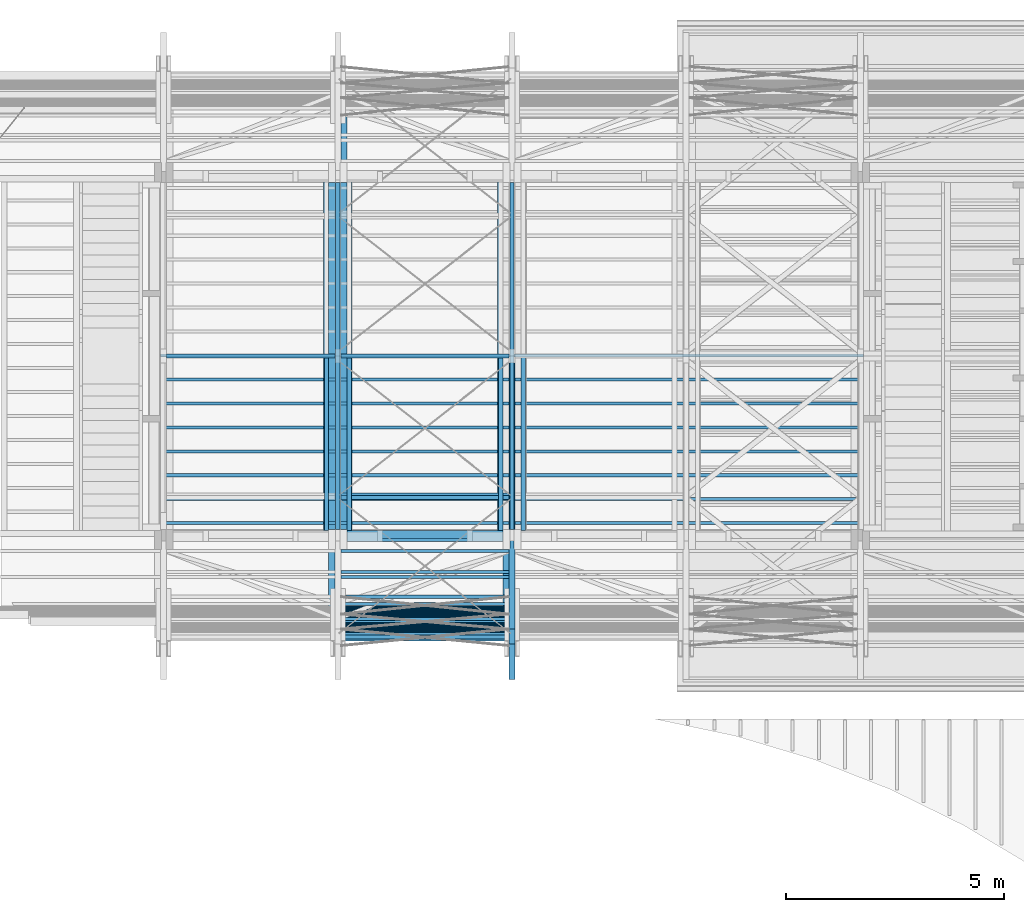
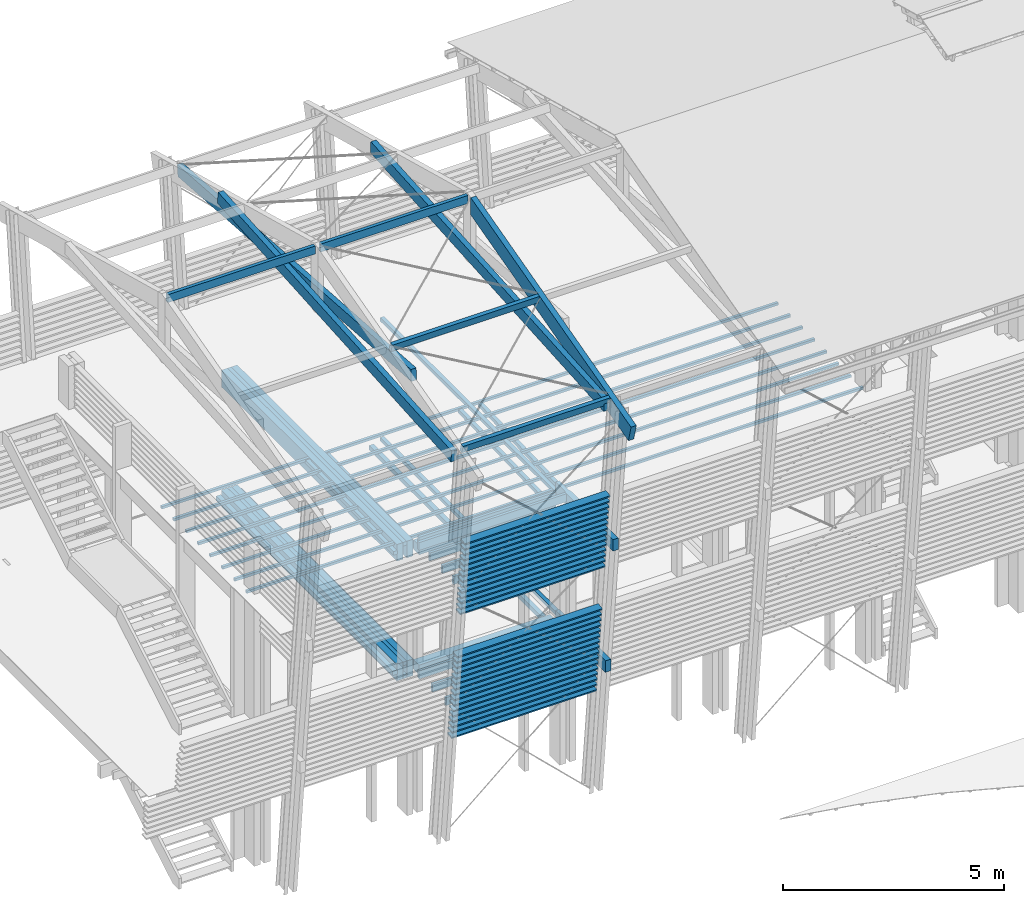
# One storey, part 6 of 48: 74 beams.
"""IFC2X3 building model written with IfcOpenShell, lengths in metres."""

from ifc_helpers import new_model, si_unit, direction, frame, origin_with_axes, place, context, subcontext, project, spatial, faceted_brep, material, element, save


model = new_model("IFC2X3")

# Units and contexts
model_context = context("Model", 3, precision=1e-06, world=origin_with_axes(), true_north=direction((0.0, 1.0, 0.0)))
body_context = subcontext(model_context, "Body", "Model", "MODEL_VIEW")
ifc_project = project(units=[si_unit("LENGTHUNIT", "METRE"), si_unit("AREAUNIT", "SQUARE_METRE"), si_unit("VOLUMEUNIT", "CUBIC_METRE"), si_unit("PLANEANGLEUNIT", "RADIAN")], contexts=[model_context])

# Site, building, storey
site_placement = place(None, origin_with_axes())
site = spatial("IfcSite", under=ifc_project, at=site_placement, CompositionType="ELEMENT")
building_placement = place(site_placement, origin_with_axes())
building = spatial("IfcBuilding", under=site, at=building_placement, Name="Building 1", CompositionType="ELEMENT")
storey_placement = place(building_placement, origin_with_axes())
storey = spatial("IfcBuildingStorey", under=building, at=storey_placement, Name="Storey 1", CompositionType="ELEMENT", Elevation=0.0)

# Beams
ifc_material_1 = material(Name="GL28h")
beam_1_placement = place(storey_placement, frame((29.2197437, -185.2064881, 4.015), z_axis=(0.0, 0.0, 1.0), x_axis=(0.0, -1.0, 0.0)))
element("IfcBeam", 1, at=beam_1_placement, inside=storey, material=ifc_material_1, Name="Sous-glace", context=body_context, shape_type="Brep", body=[
    faceted_brep([(0.0, -0.06, -0.06), (0.0, 0.06, -0.06), (8.0031634, 0.06, -0.06), (8.0031634, -0.06, -0.06), (0.0, 0.06, 0.06), (8.0031634, 0.06, 0.06), (0.0, -0.06, 0.06), (8.0031634, -0.06, 0.06)], [[[0, 1, 2, 3]], [[1, 4, 5, 2]], [[4, 6, 7, 5]], [[6, 0, 3, 7]], [[0, 6, 4, 1]], [[5, 7, 3, 2]]]),
])
beam_2_placement = place(storey_placement, frame((25.4197437, -190.2946515, 7.494), z_axis=(0.0, 0.0, 1.0), x_axis=(1.0, 0.0, 0.0)))
element("IfcBeam", 2, at=beam_2_placement, inside=storey, material=ifc_material_1, Name="Poutre - Bois de construction", context=body_context, shape_type="Brep", body=[
    faceted_brep([(16.14, -0.035, -0.035), (16.14, -0.035, 0.035), (0.0, -0.035, 0.035), (0.0, -0.035, -0.035), (16.14, 0.035, 0.035), (0.0, 0.035, 0.035), (16.14, 0.035, -0.035), (0.0, 0.035, -0.035)], [[[0, 1, 2, 3]], [[1, 4, 5, 2]], [[4, 6, 7, 5]], [[6, 0, 3, 7]], [[1, 0, 6, 4]], [[7, 3, 2, 5]]]),
])
beam_3_placement = place(storey_placement, frame((33.7497437, -189.2065705, 7.4500014), z_axis=(0.0, -0.0299865, 0.9995503), x_axis=(0.0, -0.9995503, -0.0299865)))
element("IfcBeam", 3, at=beam_3_placement, inside=storey, material=ifc_material_1, Name="Sous-glace", context=body_context, shape_type="Brep", body=[
    faceted_brep([(0.0, -0.05, 0.05), (0.003, -0.05, -0.05), (4.006382, -0.05, -0.05), (4.003382, -0.05, 0.05), (4.003382, 0.05, 0.05), (0.0, 0.05, 0.05), (0.003, 0.05, -0.05), (4.006382, 0.05, -0.05)], [[[0, 1, 2, 3]], [[3, 4, 5, 0]], [[6, 5, 4, 7]], [[1, 6, 7, 2]], [[1, 0, 5, 6]], [[2, 7, 4, 3]]]),
])
beam_4_placement = place(storey_placement, frame((25.4197437, -190.8446515, 7.494), z_axis=(0.0, 0.0, 1.0), x_axis=(1.0, 0.0, 0.0)))
element("IfcBeam", 4, at=beam_4_placement, inside=storey, material=ifc_material_1, Name="Poutre - Bois de construction", context=body_context, shape_type="Brep", body=[
    faceted_brep([(16.14, -0.035, -0.035), (16.14, -0.035, 0.035), (0.0, -0.035, 0.035), (0.0, -0.035, -0.035), (16.14, 0.035, 0.035), (0.0, 0.035, 0.035), (16.14, 0.035, -0.035), (0.0, 0.035, -0.035)], [[[0, 1, 2, 3]], [[1, 4, 5, 2]], [[4, 6, 7, 5]], [[6, 0, 3, 7]], [[1, 0, 6, 4]], [[7, 3, 2, 5]]]),
])
beam_5_placement = place(storey_placement, frame((33.2197437, -185.2064881, 4.015), z_axis=(0.0, 0.0, 1.0), x_axis=(0.0, -1.0, 0.0)))
element("IfcBeam", 5, at=beam_5_placement, inside=storey, material=ifc_material_1, Name="Sous-glace", context=body_context, shape_type="Brep", body=[
    faceted_brep([(0.0, -0.06, -0.06), (0.0, 0.06, -0.06), (8.0031634, 0.06, -0.06), (8.0031634, -0.06, -0.06), (0.0, 0.06, 0.06), (8.0031634, 0.06, 0.06), (0.0, -0.06, 0.06), (8.0031634, -0.06, 0.06)], [[[0, 1, 2, 3]], [[1, 4, 5, 2]], [[4, 6, 7, 5]], [[6, 0, 3, 7]], [[0, 6, 4, 1]], [[5, 7, 3, 2]]]),
])
beam_6_placement = place(storey_placement, frame((33.4897437, -185.2264881, 7.48), z_axis=(0.0, 0.0, 1.0), x_axis=(0.0, -1.0, 0.0)))
element("IfcBeam", 6, at=beam_6_placement, inside=storey, material=ifc_material_1, Name="Sommier", context=body_context, shape_type="Brep", body=[
    faceted_brep([(0.0, -0.05, -0.05), (0.0, -0.05, 0.05), (0.0, 0.05, 0.05), (0.0, 0.05, -0.05), (7.9631634, -0.05, 0.05), (7.9631634, 0.05, 0.05), (7.9631634, -0.05, -0.05), (7.9631634, 0.05, -0.05)], [[[0, 1, 2, 3]], [[2, 1, 4, 5]], [[1, 0, 6, 4]], [[5, 4, 6, 7]], [[3, 2, 5, 7]], [[0, 3, 7, 6]]]),
])
ifc_material_2 = material(Name="Moabi")
beam_7_placement = place(storey_placement, frame((33.3927439, -195.2445903, 5.1686208), z_axis=(0.0, 0.9945219, 0.1045285), x_axis=(-1.0, 0.0, 0.0)))
element("IfcBeam", 7, at=beam_7_placement, inside=storey, material=ifc_material_2, Name="garde corp", context=body_context, shape_type="Brep", body=[
    faceted_brep([(3.8048055, 0.02, -0.1), (3.8048055, -0.02, -0.1), (0.0, -0.02, -0.1), (0.0, 0.02, -0.1), (3.8048055, -0.02, 0.1), (0.0, -0.02, 0.1), (3.8048055, 0.02, 0.1), (0.0, 0.02, 0.1)], [[[0, 1, 2, 3]], [[1, 4, 5, 2]], [[4, 6, 7, 5]], [[6, 0, 3, 7]], [[1, 0, 6, 4]], [[7, 3, 2, 5]]]),
])
for number, where, z_axis, x_axis, name in (
    (8, (33.3927439, -195.0606202, 3.4182623), (0.0, 0.9945219, 0.1045285), (-1.0, 0.0, 0.0), "garde corp"),
    (9, (33.3927439, -195.2780394, 5.4868678), (0.0, 0.9945219, 0.1045285), (-1.0, 0.0, 0.0), "garde corp"),
):
    element("IfcBeam", number, at=place(storey_placement, frame(where, z_axis=z_axis, x_axis=x_axis)), inside=storey, material=ifc_material_2, Name=name, context=body_context, shape_type="Brep", body=[
        faceted_brep([(3.8047069, 0.02, -0.1), (3.8047069, -0.02, -0.1), (0.0, -0.02, -0.1), (0.0, 0.02, -0.1), (3.8047069, -0.02, 0.1), (0.0, -0.02, 0.1), (3.8047071, 0.02, 0.1), (0.0, 0.02, 0.1)], [[[0, 1, 2, 3]], [[1, 4, 5, 2]], [[4, 6, 7, 5]], [[6, 0, 3, 7]], [[1, 0, 6, 4]], [[7, 3, 2, 5]]]),
    ])
beam_8_placement = place(storey_placement, frame((33.3927439, -195.0438956, 3.2591388), z_axis=(0.0, 0.9945219, 0.1045285), x_axis=(-1.0, 0.0, 0.0)))
element("IfcBeam", 10, at=beam_8_placement, inside=storey, material=ifc_material_2, Name="garde corp", context=body_context, shape_type="Brep", body=[
    faceted_brep([(3.8048051, 0.02, -0.1), (3.8048051, -0.02, -0.1), (0.0, -0.02, -0.1), (0.0, 0.02, -0.1), (3.8048051, -0.02, 0.1), (0.0, -0.02, 0.1), (3.8048051, 0.02, 0.1), (0.0, 0.02, 0.1)], [[[0, 1, 2, 3]], [[1, 4, 5, 2]], [[4, 6, 7, 5]], [[6, 0, 3, 7]], [[1, 0, 6, 4]], [[7, 3, 2, 5]]]),
])
beam_9_placement = place(storey_placement, frame((29.3597437, -185.2264881, 3.985), z_axis=(0.0, 0.0, 1.0), x_axis=(0.0, -1.0, 0.0)))
element("IfcBeam", 11, at=beam_9_placement, inside=storey, material=ifc_material_1, Name="Sommier", context=body_context, shape_type="Brep", body=[
    faceted_brep([(7.9631634, 0.08, 0.23), (7.9631634, 0.08, -0.23), (0.0, 0.08, -0.23), (0.0, 0.08, 0.23), (0.0, -0.08, -0.23), (0.0, -0.08, 0.23), (7.9631634, -0.08, -0.23), (7.9631634, -0.08, 0.23)], [[[0, 1, 2, 3]], [[2, 4, 5, 3]], [[6, 7, 5, 4]], [[1, 6, 4, 2]], [[7, 6, 1, 0]], [[7, 0, 3, 5]]]),
])
beam_10_placement = place(storey_placement, frame((29.7497437, -189.2065705, 7.4500014), z_axis=(0.0, -0.0299865, 0.9995503), x_axis=(0.0, -0.9995503, -0.0299865)))
element("IfcBeam", 12, at=beam_10_placement, inside=storey, material=ifc_material_1, Name="Sous-glace", context=body_context, shape_type="Brep", body=[
    faceted_brep([(0.0, -0.05, 0.05), (0.003, -0.05, -0.05), (4.006382, -0.05, -0.05), (4.003382, -0.05, 0.05), (4.003382, 0.05, 0.05), (0.0, 0.05, 0.05), (0.003, 0.05, -0.05), (4.006382, 0.05, -0.05)], [[[0, 1, 2, 3]], [[3, 4, 5, 0]], [[6, 5, 4, 7]], [[1, 6, 7, 2]], [[1, 0, 5, 6]], [[2, 7, 4, 3]]]),
])
beam_11_placement = place(storey_placement, frame((29.3597437, -185.2264881, 7.3), z_axis=(0.0, 0.0, 1.0), x_axis=(0.0, -1.0, 0.0)))
element("IfcBeam", 13, at=beam_11_placement, inside=storey, material=ifc_material_1, Name="Sommier", context=body_context, shape_type="Brep", body=[
    faceted_brep([(7.9631634, 0.08, 0.23), (7.9631634, 0.08, -0.23), (0.0, 0.08, -0.23), (0.0, 0.08, 0.23), (0.0, -0.08, -0.23), (0.0, -0.08, 0.23), (7.9631634, -0.08, -0.23), (7.9631634, -0.08, 0.23)], [[[0, 1, 2, 3]], [[2, 4, 5, 3]], [[6, 7, 5, 4]], [[1, 6, 4, 2]], [[7, 6, 1, 0]], [[7, 0, 3, 5]]]),
])
beam_12_placement = place(storey_placement, frame((33.3927439, -195.2278657, 5.0094973), z_axis=(0.0, 0.9945219, 0.1045285), x_axis=(-1.0, 0.0, 0.0)))
element("IfcBeam", 14, at=beam_12_placement, inside=storey, material=ifc_material_2, Name="garde corp", context=body_context, shape_type="Brep", body=[
    faceted_brep([(3.8047069, 0.02, -0.1), (3.8047071, -0.02, -0.1), (0.0, -0.02, -0.1), (0.0, 0.02, -0.1), (3.8047069, -0.02, 0.1), (0.0, -0.02, 0.1), (3.8047071, 0.02, 0.1), (0.0, 0.02, 0.1)], [[[0, 1, 2, 3]], [[1, 4, 5, 2]], [[4, 6, 7, 5]], [[6, 0, 3, 7]], [[1, 0, 6, 4]], [[7, 3, 2, 5]]]),
])
beam_13_placement = place(storey_placement, frame((33.3927439, -195.1944166, 4.6912503), z_axis=(0.0, 0.9945219, 0.1045285), x_axis=(-1.0, 0.0, 0.0)))
element("IfcBeam", 15, at=beam_13_placement, inside=storey, material=ifc_material_2, Name="garde corp", context=body_context, shape_type="Brep", body=[
    faceted_brep([(3.8047069, 0.02, -0.1), (3.8047071, -0.02, -0.1), (0.0, -0.02, -0.1), (0.0, 0.02, -0.1), (3.8047071, -0.02, 0.1), (0.0, -0.02, 0.1), (3.8047071, 0.02, 0.1), (0.0, 0.02, 0.1)], [[[0, 1, 2, 3]], [[1, 4, 5, 2]], [[4, 6, 7, 5]], [[6, 0, 3, 7]], [[1, 0, 6, 4]], [[7, 3, 2, 5]]]),
])
for number, where, z_axis, x_axis in (
    (16, (33.4897437, -185.2264881, 4.165), (0.0, 0.0, 1.0), (0.0, -1.0, 0.0)),
    (17, (29.4897437, -185.2264881, 4.165), (0.0, 0.0, 1.0), (0.0, -1.0, 0.0)),
):
    element("IfcBeam", number, at=place(storey_placement, frame(where, z_axis=z_axis, x_axis=x_axis)), inside=storey, material=ifc_material_1, Name="Sommier", context=body_context, shape_type="Brep", body=[
        faceted_brep([(0.0, -0.05, -0.05), (0.0, -0.05, 0.05), (0.0, 0.05, 0.05), (0.0, 0.05, -0.05), (7.9631634, -0.05, 0.05), (7.9631634, 0.05, 0.05), (7.9631634, -0.05, -0.05), (7.9631634, 0.05, -0.05)], [[[0, 1, 2, 3]], [[2, 1, 4, 5]], [[1, 0, 6, 4]], [[5, 4, 6, 7]], [[3, 2, 5, 7]], [[0, 3, 7, 6]]]),
    ])
for number, where, z_axis, x_axis, name in (
    (18, (25.4197437, -191.9446515, 7.494), (0.0, 0.0, 1.0), (1.0, 0.0, 0.0), "Poutre - Bois de construction"),
    (19, (25.4197437, -189.7446515, 7.494), (0.0, 0.0, 1.0), (1.0, 0.0, 0.0), "Poutre - Bois de construction"),
    (20, (25.4197437, -192.4946515, 7.494), (0.0, 0.0, 1.0), (1.0, 0.0, 0.0), "Poutre - Bois de construction"),
    (21, (25.4197437, -191.3946515, 7.494), (0.0, 0.0, 1.0), (1.0, 0.0, 0.0), "Poutre - Bois de construction"),
    (22, (25.4197437, -193.0446515, 7.494), (0.0, 0.0, 1.0), (1.0, 0.0, 0.0), "Poutre - Bois de construction"),
    (23, (25.4197437, -189.1946515, 7.494), (0.0, 0.0, 1.0), (1.0, 0.0, 0.0), "Poutre - Bois de construction"),
):
    element("IfcBeam", number, at=place(storey_placement, frame(where, z_axis=z_axis, x_axis=x_axis)), inside=storey, material=ifc_material_1, Name=name, context=body_context, shape_type="Brep", body=[
        faceted_brep([(16.14, -0.035, -0.035), (16.14, -0.035, 0.035), (0.0, -0.035, 0.035), (0.0, -0.035, -0.035), (16.14, 0.035, 0.035), (0.0, 0.035, 0.035), (16.14, 0.035, -0.035), (0.0, 0.035, -0.035)], [[[0, 1, 2, 3]], [[1, 4, 5, 2]], [[4, 6, 7, 5]], [[6, 0, 3, 7]], [[1, 0, 6, 4]], [[7, 3, 2, 5]]]),
    ])
beam_14_placement = place(storey_placement, frame((33.3927441, -195.478734, 7.3963498), z_axis=(0.0, 0.9945219, 0.1045285), x_axis=(-1.0, 0.0, 0.0)))
element("IfcBeam", 24, at=beam_14_placement, inside=storey, material=ifc_material_2, Name="garde corp", context=body_context, shape_type="Brep", body=[
    faceted_brep([(3.806, 0.02, -0.1), (3.806, -0.02, -0.1), (0.0, -0.02, -0.1), (0.0, 0.02, -0.1), (3.806, -0.02, 0.1), (0.0, -0.02, 0.1), (3.806, 0.02, 0.1), (0.0, 0.02, 0.1)], [[[0, 1, 2, 3]], [[1, 4, 5, 2]], [[4, 6, 7, 5]], [[6, 0, 3, 7]], [[1, 0, 6, 4]], [[7, 3, 2, 5]]]),
])
beam_15_placement = place(storey_placement, frame((29.5597437, -194.2816702, 4.139), z_axis=(0.0, 0.0, 1.0), x_axis=(1.0, 0.0, 0.0)))
element("IfcBeam", 25, at=beam_15_placement, inside=storey, material=ifc_material_1, Name="Solive", context=body_context, shape_type="Brep", body=[
    faceted_brep([(3.86, 0.035, 0.11), (3.86, 0.035, -0.11), (0.0, 0.035, -0.11), (0.0, 0.035, 0.11), (3.86, -0.035, -0.11), (0.0, -0.035, -0.11), (3.86, -0.035, 0.11), (0.0, -0.035, 0.11)], [[[0, 1, 2, 3]], [[1, 4, 5, 2]], [[4, 6, 7, 5]], [[6, 0, 3, 7]], [[1, 0, 6, 4]], [[7, 3, 2, 5]]]),
])
beam_16_placement = place(storey_placement, frame((33.3927439, -195.1107938, 3.8956328), z_axis=(0.0, 0.9945219, 0.1045285), x_axis=(-1.0, 0.0, 0.0)))
element("IfcBeam", 26, at=beam_16_placement, inside=storey, material=ifc_material_2, Name="garde corp", context=body_context, shape_type="Brep", body=[
    faceted_brep([(3.8047069, 0.02, -0.1), (3.8047071, -0.02, -0.1), (0.0, -0.02, -0.1), (0.0, 0.02, -0.1), (3.8047071, -0.02, 0.1), (0.0, -0.02, 0.1), (3.8047071, 0.02, 0.1), (0.0, 0.02, 0.1)], [[[0, 1, 2, 3]], [[1, 4, 5, 2]], [[4, 6, 7, 5]], [[6, 0, 3, 7]], [[1, 0, 6, 4]], [[7, 3, 2, 5]]]),
])
beam_17_placement = place(storey_placement, frame((33.3927439, -195.2111412, 4.8503738), z_axis=(0.0, 0.9945219, 0.1045285), x_axis=(-1.0, 0.0, 0.0)))
element("IfcBeam", 27, at=beam_17_placement, inside=storey, material=ifc_material_2, Name="garde corp", context=body_context, shape_type="Brep", body=[
    faceted_brep([(3.8048055, 0.02, -0.1), (3.8048055, -0.02, -0.1), (0.0, -0.02, -0.1), (0.0, 0.02, -0.1), (3.8048055, -0.02, 0.1), (0.0, -0.02, 0.1), (3.8048055, 0.02, 0.1), (0.0, 0.02, 0.1)], [[[0, 1, 2, 3]], [[1, 4, 5, 2]], [[4, 6, 7, 5]], [[6, 0, 3, 7]], [[1, 0, 6, 4]], [[7, 3, 2, 5]]]),
])
for number, where, z_axis, x_axis, name in (
    (28, (33.3927439, -195.1609675, 4.3730033), (0.0, 0.9945219, 0.1045285), (-1.0, 0.0, 0.0), "garde corp"),
    (29, (33.3927439, -195.1275184, 4.0547563), (0.0, 0.9945219, 0.1045285), (-1.0, 0.0, 0.0), "garde corp"),
):
    element("IfcBeam", number, at=place(storey_placement, frame(where, z_axis=z_axis, x_axis=x_axis)), inside=storey, material=ifc_material_2, Name=name, context=body_context, shape_type="Brep", body=[
        faceted_brep([(3.8048051, 0.02, -0.1), (3.8048051, -0.02, -0.1), (0.0, -0.02, -0.1), (0.0, 0.02, -0.1), (3.8048051, -0.02, 0.1), (0.0, -0.02, 0.1), (3.8048051, 0.02, 0.1), (0.0, 0.02, 0.1)], [[[0, 1, 2, 3]], [[1, 4, 5, 2]], [[4, 6, 7, 5]], [[6, 0, 3, 7]], [[1, 0, 6, 4]], [[7, 3, 2, 5]]]),
    ])
beam_18_placement = place(storey_placement, frame((33.3927439, -195.0940693, 3.7365093), z_axis=(0.0, 0.9945219, 0.1045285), x_axis=(-1.0, 0.0, 0.0)))
element("IfcBeam", 30, at=beam_18_placement, inside=storey, material=ifc_material_2, Name="garde corp", context=body_context, shape_type="Brep", body=[
    faceted_brep([(3.8047069, 0.02, -0.1), (3.8047071, -0.02, -0.1), (0.0, -0.02, -0.1), (0.0, 0.02, -0.1), (3.8047071, -0.02, 0.1), (0.0, -0.02, 0.1), (3.8047071, 0.02, 0.1), (0.0, 0.02, 0.1)], [[[0, 1, 2, 3]], [[1, 4, 5, 2]], [[4, 6, 7, 5]], [[6, 0, 3, 7]], [[1, 0, 6, 4]], [[7, 3, 2, 5]]]),
])
beam_19_placement = place(storey_placement, frame((33.3927439, -195.0773447, 3.5773858), z_axis=(0.0, 0.9945219, 0.1045285), x_axis=(-1.0, 0.0, 0.0)))
element("IfcBeam", 31, at=beam_19_placement, inside=storey, material=ifc_material_2, Name="garde corp", context=body_context, shape_type="Brep", body=[
    faceted_brep([(3.8047071, 0.02, -0.1), (3.8047071, -0.02, -0.1), (0.0, -0.02, -0.1), (0.0, 0.02, -0.1), (3.8047071, -0.02, 0.1), (0.0, -0.02, 0.1), (3.8047071, 0.02, 0.1), (0.0, 0.02, 0.1)], [[[0, 1, 2, 3]], [[1, 4, 5, 2]], [[4, 6, 7, 5]], [[6, 0, 3, 7]], [[1, 0, 6, 4]], [[7, 3, 2, 5]]]),
])
beam_20_placement = place(storey_placement, frame((33.3927439, -195.177692, 4.5321268), z_axis=(0.0, 0.9945219, 0.1045285), x_axis=(-1.0, 0.0, 0.0)))
element("IfcBeam", 32, at=beam_20_placement, inside=storey, material=ifc_material_2, Name="garde corp", context=body_context, shape_type="Brep", body=[
    faceted_brep([(3.8047069, 0.02, -0.1), (3.8047071, -0.02, -0.1), (0.0, -0.02, -0.1), (0.0, 0.02, -0.1), (3.8047069, -0.02, 0.1), (0.0, -0.02, 0.1), (3.8047071, 0.02, 0.1), (0.0, 0.02, 0.1)], [[[0, 1, 2, 3]], [[1, 4, 5, 2]], [[4, 6, 7, 5]], [[6, 0, 3, 7]], [[1, 0, 6, 4]], [[7, 3, 2, 5]]]),
])
for number, where, z_axis, x_axis, name in (
    (33, (33.3927441, -195.5790813, 8.3510909), (0.0, 0.9945219, 0.1045285), (-1.0, 0.0, 0.0), "garde corp"),
    (34, (33.3927441, -195.5958059, 8.5102144), (0.0, 0.9945219, 0.1045285), (-1.0, 0.0, 0.0), "garde corp"),
    (35, (33.3927441, -195.5623568, 8.1919674), (0.0, 0.9945219, 0.1045285), (-1.0, 0.0, 0.0), "garde corp"),
):
    element("IfcBeam", number, at=place(storey_placement, frame(where, z_axis=z_axis, x_axis=x_axis)), inside=storey, material=ifc_material_2, Name=name, context=body_context, shape_type="Brep", body=[
        faceted_brep([(3.806, 0.02, -0.1), (3.806, -0.02, -0.1), (0.0, -0.02, -0.1), (0.0, 0.02, -0.1), (3.806, -0.02, 0.1), (0.0, -0.02, 0.1), (3.806, 0.02, 0.1), (0.0, 0.02, 0.1)], [[[0, 1, 2, 3]], [[1, 4, 5, 2]], [[4, 6, 7, 5]], [[6, 0, 3, 7]], [[1, 0, 6, 4]], [[7, 3, 2, 5]]]),
    ])
beam_21_placement = place(storey_placement, frame((29.4897437, -185.2264881, 3.805), z_axis=(0.0, 0.0, 1.0), x_axis=(0.0, -1.0, 0.0)))
element("IfcBeam", 36, at=beam_21_placement, inside=storey, material=ifc_material_1, Name="Sommier", context=body_context, shape_type="Brep", body=[
    faceted_brep([(0.0, -0.05, -0.05), (0.0, -0.05, 0.05), (0.0, 0.05, 0.05), (0.0, 0.05, -0.05), (7.9631634, -0.05, 0.05), (7.9631634, 0.05, 0.05), (7.9631634, -0.05, -0.05), (7.9631634, 0.05, -0.05)], [[[0, 1, 2, 3]], [[2, 1, 4, 5]], [[1, 0, 6, 4]], [[5, 4, 6, 7]], [[3, 2, 5, 7]], [[0, 3, 7, 6]]]),
])
beam_22_placement = place(storey_placement, frame((33.3927439, -195.1442429, 4.2138798), z_axis=(0.0, 0.9945219, 0.1045285), x_axis=(-1.0, 0.0, 0.0)))
element("IfcBeam", 37, at=beam_22_placement, inside=storey, material=ifc_material_2, Name="garde corp", context=body_context, shape_type="Brep", body=[
    faceted_brep([(3.8048051, 0.02, -0.1), (3.8048051, -0.02, -0.1), (0.0, -0.02, -0.1), (0.0, 0.02, -0.1), (3.8048051, -0.02, 0.1), (0.0, -0.02, 0.1), (3.8048051, 0.02, 0.1), (0.0, 0.02, 0.1)], [[[0, 1, 2, 3]], [[1, 4, 5, 2]], [[4, 6, 7, 5]], [[6, 0, 3, 7]], [[1, 0, 6, 4]], [[7, 3, 2, 5]]]),
])
beam_23_placement = place(storey_placement, frame((33.3927439, -195.2613148, 5.3277443), z_axis=(0.0, 0.9945219, 0.1045285), x_axis=(-1.0, 0.0, 0.0)))
element("IfcBeam", 38, at=beam_23_placement, inside=storey, material=ifc_material_2, Name="garde corp", context=body_context, shape_type="Brep", body=[
    faceted_brep([(3.8048055, 0.02, -0.1), (3.8048055, -0.02, -0.1), (0.0, -0.02, -0.1), (0.0, 0.02, -0.1), (3.8048055, -0.02, 0.1), (0.0, -0.02, 0.1), (3.8048055, 0.02, 0.1), (0.0, 0.02, 0.1)], [[[0, 1, 2, 3]], [[1, 4, 5, 2]], [[4, 6, 7, 5]], [[6, 0, 3, 7]], [[1, 0, 6, 4]], [[7, 3, 2, 5]]]),
])
for number, where, z_axis, x_axis, name in (
    (39, (33.3927437, -195.6459796, 8.9875849), (0.0, 0.9945219, 0.1045285), (-1.0, 0.0, 0.0), "garde corp"),
    (40, (33.3927437, -195.6125305, 8.6693379), (0.0, 0.9945219, 0.1045285), (-1.0, 0.0, 0.0), "garde corp"),
    (41, (33.3927441, -195.629255, 8.8284614), (0.0, 0.9945219, 0.1045285), (-1.0, 0.0, 0.0), "garde corp"),
    (42, (33.3927441, -195.4285604, 6.9189793), (0.0, 0.9945219, 0.1045285), (-1.0, 0.0, 0.0), "garde corp"),
    (43, (33.3927441, -195.4954586, 7.5554733), (0.0, 0.9945219, 0.1045285), (-1.0, 0.0, 0.0), "garde corp"),
):
    element("IfcBeam", number, at=place(storey_placement, frame(where, z_axis=z_axis, x_axis=x_axis)), inside=storey, material=ifc_material_2, Name=name, context=body_context, shape_type="Brep", body=[
        faceted_brep([(3.806, 0.02, -0.1), (3.806, -0.02, -0.1), (0.0, -0.02, -0.1), (0.0, 0.02, -0.1), (3.806, -0.02, 0.1), (0.0, -0.02, 0.1), (3.806, 0.02, 0.1), (0.0, 0.02, 0.1)], [[[0, 1, 2, 3]], [[1, 4, 5, 2]], [[4, 6, 7, 5]], [[6, 0, 3, 7]], [[1, 0, 6, 4]], [[7, 3, 2, 5]]]),
    ])
beam_24_placement = place(storey_placement, frame((33.3927439, -195.2947639, 5.6459913), z_axis=(0.0, 0.9945219, 0.1045285), x_axis=(-1.0, 0.0, 0.0)))
element("IfcBeam", 44, at=beam_24_placement, inside=storey, material=ifc_material_2, Name="garde corp", context=body_context, shape_type="Brep", body=[
    faceted_brep([(3.8048055, 0.02, -0.1), (3.8048055, -0.02, -0.1), (0.0, -0.02, -0.1), (0.0, 0.02, -0.1), (3.8048055, -0.02, 0.1), (0.0, -0.02, 0.1), (3.8048055, 0.02, 0.1), (0.0, 0.02, 0.1)], [[[0, 1, 2, 3]], [[1, 4, 5, 2]], [[4, 6, 7, 5]], [[6, 0, 3, 7]], [[1, 0, 6, 4]], [[7, 3, 2, 5]]]),
])
for number, where, z_axis, x_axis, name in (
    (45, (33.3927441, -195.5289077, 7.8737203), (0.0, 0.9945219, 0.1045285), (-1.0, 0.0, 0.0), "garde corp"),
    (46, (33.3927441, -195.4452849, 7.0781028), (0.0, 0.9945219, 0.1045285), (-1.0, 0.0, 0.0), "garde corp"),
    (47, (33.3927441, -195.4620095, 7.2372263), (0.0, 0.9945219, 0.1045285), (-1.0, 0.0, 0.0), "garde corp"),
    (48, (33.3927437, -195.5456322, 8.0328439), (0.0, 0.9945219, 0.1045285), (-1.0, 0.0, 0.0), "garde corp"),
    (49, (33.3927441, -195.5121831, 7.7145968), (0.0, 0.9945219, 0.1045285), (-1.0, 0.0, 0.0), "garde corp"),
):
    element("IfcBeam", number, at=place(storey_placement, frame(where, z_axis=z_axis, x_axis=x_axis)), inside=storey, material=ifc_material_2, Name=name, context=body_context, shape_type="Brep", body=[
        faceted_brep([(3.806, 0.02, -0.1), (3.806, -0.02, -0.1), (0.0, -0.02, -0.1), (0.0, 0.02, -0.1), (3.806, -0.02, 0.1), (0.0, -0.02, 0.1), (3.806, 0.02, 0.1), (0.0, 0.02, 0.1)], [[[0, 1, 2, 3]], [[1, 4, 5, 2]], [[4, 6, 7, 5]], [[6, 0, 3, 7]], [[1, 0, 6, 4]], [[7, 3, 2, 5]]]),
    ])
beam_25_placement = place(storey_placement, frame((29.5597437, -195.2446515, 7.699), z_axis=(0.0, 0.0, 1.0), x_axis=(1.0, 0.0, 0.0)))
element("IfcBeam", 50, at=beam_25_placement, inside=storey, material=ifc_material_1, Name="Solive", context=body_context, shape_type="Brep", body=[
    faceted_brep([(0.0, -0.035, -0.11), (0.0, -0.035, 0.11), (0.0, 0.035, 0.11), (0.0, 0.035, -0.11), (3.8599996, -0.035, 0.11), (3.8599996, 0.035, 0.11), (3.8599996, -0.035, -0.11), (3.8599996, 0.035, -0.11)], [[[0, 1, 2, 3]], [[2, 1, 4, 5]], [[1, 0, 6, 4]], [[0, 3, 7, 6]], [[3, 2, 5, 7]], [[7, 5, 4, 6]]]),
])
beam_26_placement = place(storey_placement, frame((29.2297437, -189.2065705, 7.4500014), z_axis=(0.0, -0.0299865, 0.9995503), x_axis=(0.0, -0.9995503, -0.0299865)))
element("IfcBeam", 51, at=beam_26_placement, inside=storey, material=ifc_material_1, Name="Sous-glace", context=body_context, shape_type="Brep", body=[
    faceted_brep([(0.0, -0.05, 0.05), (0.003, -0.05, -0.05), (4.006382, -0.05, -0.05), (4.003382, -0.05, 0.05), (4.003382, 0.05, 0.05), (0.0, 0.05, 0.05), (0.003, 0.05, -0.05), (4.006382, 0.05, -0.05)], [[[0, 1, 2, 3]], [[3, 4, 5, 0]], [[6, 5, 4, 7]], [[1, 6, 7, 2]], [[1, 0, 5, 6]], [[2, 7, 4, 3]]]),
])
beam_27_placement = place(storey_placement, frame((29.5597433, -189.2080698, 13.2512653), z_axis=(0.0, 0.0, 1.0), x_axis=(1.0, 0.0, 0.0)))
element("IfcBeam", 52, at=beam_27_placement, inside=storey, material=ifc_material_1, Name="Buton", context=body_context, shape_type="Brep", body=[
    faceted_brep([(3.8600004, -0.045, 0.11), (3.8600004, 0.045, 0.11), (0.0, 0.045, 0.11), (0.0, -0.045, 0.11), (3.8600004, 0.045, -0.11), (0.0, 0.045, -0.11), (3.8600004, -0.045, -0.11), (0.0, -0.045, -0.11)], [[[0, 1, 2, 3]], [[1, 4, 5, 2]], [[4, 6, 7, 5]], [[6, 0, 3, 7]], [[1, 0, 6, 4]], [[7, 3, 2, 5]]]),
])
beam_28_placement = place(storey_placement, frame((29.5597437, -194.7346515, 7.699), z_axis=(0.0, 0.0, 1.0), x_axis=(1.0, 0.0, 0.0)))
element("IfcBeam", 53, at=beam_28_placement, inside=storey, material=ifc_material_1, Name="Solive", context=body_context, shape_type="Brep", body=[
    faceted_brep([(3.86, 0.035, 0.11), (3.86, 0.035, -0.11), (0.0, 0.035, -0.11), (0.0, 0.035, 0.11), (3.86, -0.035, -0.11), (0.0, -0.035, -0.11), (3.86, -0.035, 0.11), (0.0, -0.035, 0.11)], [[[0, 1, 2, 3]], [[1, 4, 5, 2]], [[4, 6, 7, 5]], [[6, 0, 3, 7]], [[1, 0, 6, 4]], [[7, 3, 2, 5]]]),
])
beam_29_placement = place(storey_placement, frame((29.4897437, -185.2264881, 7.48), z_axis=(0.0, 0.0, 1.0), x_axis=(0.0, -1.0, 0.0)))
element("IfcBeam", 54, at=beam_29_placement, inside=storey, material=ifc_material_1, Name="Sommier", context=body_context, shape_type="Brep", body=[
    faceted_brep([(0.0, -0.05, -0.05), (0.0, -0.05, 0.05), (0.0, 0.05, 0.05), (0.0, 0.05, -0.05), (7.9631634, -0.05, 0.05), (7.9631634, 0.05, 0.05), (7.9631634, -0.05, -0.05), (7.9631634, 0.05, -0.05)], [[[0, 1, 2, 3]], [[2, 1, 4, 5]], [[1, 0, 6, 4]], [[5, 4, 6, 7]], [[3, 2, 5, 7]], [[0, 3, 7, 6]]]),
])
beam_30_placement = place(storey_placement, frame((29.5597437, -193.6846515, 7.699), z_axis=(0.0, 0.0, 1.0), x_axis=(1.0, 0.0, 0.0)))
element("IfcBeam", 55, at=beam_30_placement, inside=storey, material=ifc_material_1, Name="Solive", context=body_context, shape_type="Brep", body=[
    faceted_brep([(3.86, 0.035, 0.11), (3.86, 0.035, -0.11), (0.0, 0.035, -0.11), (0.0, 0.035, 0.11), (3.86, -0.035, -0.11), (0.0, -0.035, -0.11), (3.86, -0.035, 0.11), (0.0, -0.035, 0.11)], [[[0, 1, 2, 3]], [[1, 4, 5, 2]], [[4, 6, 7, 5]], [[6, 0, 3, 7]], [[1, 0, 6, 4]], [[7, 3, 2, 5]]]),
])
beam_31_placement = place(storey_placement, frame((29.6997437, -193.4346515, 7.64), z_axis=(0.0, 0.0, 1.0), x_axis=(1.0, 0.0, 0.0)))
element("IfcBeam", 56, at=beam_31_placement, inside=storey, material=ifc_material_1, Name="Rive", context=body_context, shape_type="Brep", body=[
    faceted_brep([(0.0, -0.035, -0.11), (0.0, -0.035, 0.11), (0.0, 0.035, 0.11), (0.0, 0.035, -0.11), (3.58, 0.035, -0.11), (3.58, -0.035, -0.11), (3.58, -0.035, 0.11), (3.58, 0.035, 0.11)], [[[0, 1, 2, 3]], [[0, 3, 4, 5]], [[1, 0, 5, 6]], [[5, 4, 7, 6]], [[3, 2, 7, 4]], [[2, 1, 6, 7]]]),
])
beam_32_placement = place(storey_placement, frame((33.2297437, -189.2065705, 7.4500014), z_axis=(0.0, -0.0299865, 0.9995503), x_axis=(0.0, -0.9995503, -0.0299865)))
element("IfcBeam", 57, at=beam_32_placement, inside=storey, material=ifc_material_1, Name="Sous-glace", context=body_context, shape_type="Brep", body=[
    faceted_brep([(0.0, -0.05, 0.05), (0.003, -0.05, -0.05), (4.006382, -0.05, -0.05), (4.003382, -0.05, 0.05), (4.003382, 0.05, 0.05), (0.0, 0.05, 0.05), (0.003, 0.05, -0.05), (4.006382, 0.05, -0.05)], [[[0, 1, 2, 3]], [[3, 4, 5, 0]], [[6, 5, 4, 7]], [[1, 6, 7, 2]], [[1, 0, 5, 6]], [[2, 7, 4, 3]]]),
])
beam_33_placement = place(storey_placement, frame((29.6297437, -182.7509358, 11.4619485), z_axis=(0.0, 0.070184, 0.9975341), x_axis=(0.0, -0.9975341, 0.070184)))
element("IfcBeam", 58, at=beam_33_placement, inside=storey, material=ifc_material_1, Name="Entrait", context=body_context, shape_type="Brep", body=[
    faceted_brep([(0.0, 0.07, 0.16), (0.0110373, 0.07, -0.16), (0.0110373, -0.07, -0.16), (0.0, -0.07, 0.16), (10.6243711, 0.07, -0.16), (10.6243711, -0.07, -0.16), (10.6243711, 0.07, 0.16), (10.6243711, -0.07, 0.16)], [[[0, 1, 2, 3]], [[2, 1, 4, 5]], [[1, 0, 6, 4]], [[5, 4, 6, 7]], [[3, 2, 5, 7]], [[0, 3, 7, 6]]]),
])
for number, where, z_axis, x_axis in (
    (59, (29.5597433, -192.4247592, 12.4354756), (0.0, -0.258819, 0.9659258), (1.0, 0.0, 0.0)),
    (60, (29.5597433, -195.6333854, 11.5757268), (0.0, -0.258819, 0.9659258), (1.0, 0.0, 0.0)),
):
    element("IfcBeam", number, at=place(storey_placement, frame(where, z_axis=z_axis, x_axis=x_axis)), inside=storey, material=ifc_material_1, Name="Buton", context=body_context, shape_type="Brep", body=[
        faceted_brep([(3.8600004, -0.045, 0.11), (3.8600004, 0.045, 0.11), (0.0, 0.045, 0.11), (0.0, -0.045, 0.11), (3.8600004, 0.045, -0.11), (0.0, 0.045, -0.11), (3.8600004, -0.045, -0.11), (0.0, -0.045, -0.11)], [[[0, 1, 2, 3]], [[1, 4, 5, 2]], [[4, 6, 7, 5]], [[6, 0, 3, 7]], [[1, 0, 6, 4]], [[7, 3, 2, 5]]]),
    ])
for number, where, z_axis, x_axis in (
    (61, (29.5597437, -194.898689, 4.139), (0.0, 0.0, 1.0), (1.0, 0.0, 0.0)),
    (62, (29.5597437, -193.6846515, 4.139), (0.0, 0.0, 1.0), (1.0, 0.0, 0.0)),
):
    element("IfcBeam", number, at=place(storey_placement, frame(where, z_axis=z_axis, x_axis=x_axis)), inside=storey, material=ifc_material_1, Name="Solive", context=body_context, shape_type="Brep", body=[
        faceted_brep([(3.86, 0.035, 0.11), (3.86, 0.035, -0.11), (0.0, 0.035, -0.11), (0.0, 0.035, 0.11), (3.86, -0.035, -0.11), (0.0, -0.035, -0.11), (3.86, -0.035, 0.11), (0.0, -0.035, 0.11)], [[[0, 1, 2, 3]], [[1, 4, 5, 2]], [[4, 6, 7, 5]], [[6, 0, 3, 7]], [[1, 0, 6, 4]], [[7, 3, 2, 5]]]),
    ])
beam_34_placement = place(storey_placement, frame((29.7597437, -185.2064881, 4.015), z_axis=(0.0, 0.0, 1.0), x_axis=(0.0, -1.0, 0.0)))
element("IfcBeam", 63, at=beam_34_placement, inside=storey, material=ifc_material_1, Name="Sous-glace", context=body_context, shape_type="Brep", body=[
    faceted_brep([(0.0, -0.06, -0.06), (0.0, 0.06, -0.06), (8.0031634, 0.06, -0.06), (8.0031634, -0.06, -0.06), (0.0, 0.06, 0.06), (8.0031634, 0.06, 0.06), (0.0, -0.06, 0.06), (8.0031634, -0.06, 0.06)], [[[0, 1, 2, 3]], [[1, 4, 5, 2]], [[4, 6, 7, 5]], [[6, 0, 3, 7]], [[0, 6, 4, 1]], [[5, 7, 3, 2]]]),
])
beam_35_placement = place(storey_placement, frame((29.6197437, -185.2264881, 7.3), z_axis=(0.0, 0.0, 1.0), x_axis=(0.0, -1.0, 0.0)))
element("IfcBeam", 64, at=beam_35_placement, inside=storey, material=ifc_material_1, Name="Sommier", context=body_context, shape_type="Brep", body=[
    faceted_brep([(7.9631634, 0.08, 0.23), (7.9631634, 0.08, -0.23), (0.0, 0.08, -0.23), (0.0, 0.08, 0.23), (0.0, -0.08, -0.23), (0.0, -0.08, 0.23), (7.9631634, -0.08, -0.23), (7.9631634, -0.08, 0.23)], [[[0, 1, 2, 3]], [[2, 4, 5, 3]], [[6, 7, 5, 4]], [[1, 6, 4, 2]], [[7, 6, 1, 0]], [[7, 0, 3, 5]]]),
])
beam_36_placement = place(storey_placement, frame((25.5597433, -189.2080698, 13.2512653), z_axis=(0.0, 0.0, 1.0), x_axis=(1.0, 0.0, 0.0)))
element("IfcBeam", 65, at=beam_36_placement, inside=storey, material=ifc_material_1, Name="Buton", context=body_context, shape_type="Brep", body=[
    faceted_brep([(3.8600004, -0.045, 0.11), (3.8600004, 0.045, 0.11), (0.0, 0.045, 0.11), (0.0, -0.045, 0.11), (3.8600004, 0.045, -0.11), (0.0, 0.045, -0.11), (3.8600004, -0.045, -0.11), (0.0, -0.045, -0.11)], [[[0, 1, 2, 3]], [[1, 4, 5, 2]], [[4, 6, 7, 5]], [[6, 0, 3, 7]], [[1, 0, 6, 4]], [[7, 3, 2, 5]]]),
])
beam_37_placement = place(storey_placement, frame((33.4897437, -196.5806087, 11.197686), z_axis=(0.0, -0.258819, 0.9659258), x_axis=(0.0, 0.9659258, 0.258819)))
element("IfcBeam", 66, at=beam_37_placement, inside=storey, material=ifc_material_1, Name="Arbalétrier", context=body_context, shape_type="Brep", body=[
    faceted_brep([(7.4053414, 0.07, -0.23), (7.5285981, 0.07, 0.23), (7.5285981, -0.07, 0.23), (7.4053414, -0.07, -0.23), (0.0, 0.07, 0.23), (0.0, -0.07, 0.23), (0.0, 0.07, -0.23), (0.0, -0.07, -0.23)], [[[0, 1, 2, 3]], [[2, 1, 4, 5]], [[1, 0, 6, 4]], [[0, 3, 7, 6]], [[3, 2, 5, 7]], [[6, 7, 5, 4]]]),
])
beam_38_placement = place(storey_placement, frame((33.4897437, -193.1896515, 7.649), z_axis=(0.0, 0.0, 1.0), x_axis=(0.0, -1.0, 0.0)))
element("IfcBeam", 67, at=beam_38_placement, inside=storey, material=ifc_material_1, Name="Sommier Coursive", context=body_context, shape_type="Brep", body=[
    faceted_brep([(0.0, -0.05, -0.16), (0.44, -0.05, -0.16), (0.44, -0.05, 0.16), (0.0, -0.05, 0.16), (0.44, -0.07, -0.16), (0.44, -0.07, 0.16), (0.0, 0.05, 0.16), (0.0, 0.05, -0.16), (2.6285375, -0.07, 0.16), (2.6285375, 0.07, 0.16), (0.44, 0.07, 0.16), (0.44, 0.05, 0.16), (0.44, 0.05, -0.16), (0.44, 0.07, -0.16), (2.6285375, -0.07, -0.16), (2.6285375, 0.07, -0.16)], [[[0, 1, 2, 3]], [[1, 4, 5, 2]], [[0, 3, 6, 7]], [[3, 2, 5, 8, 9, 10, 11, 6]], [[6, 11, 12, 7]], [[11, 10, 13, 12]], [[5, 4, 14, 8]], [[1, 0, 7, 12, 13, 15, 14, 4]], [[13, 10, 9, 15]], [[9, 8, 14, 15]]]),
])
beam_39_placement = place(storey_placement, frame((29.3497437, -195.6652037, 11.4619485), z_axis=(0.0, -0.070184, 0.9975341), x_axis=(0.0, 0.9975341, 0.070184)))
element("IfcBeam", 68, at=beam_39_placement, inside=storey, material=ifc_material_1, Name="Entrait", context=body_context, shape_type="Brep", body=[
    faceted_brep([(0.0, 0.07, 0.16), (0.0110373, 0.07, -0.16), (0.0110373, -0.07, -0.16), (0.0, -0.07, 0.16), (10.6243711, 0.07, -0.16), (10.6243711, -0.07, -0.16), (10.6243711, 0.07, 0.16), (10.6243711, -0.07, 0.16)], [[[0, 1, 2, 3]], [[2, 1, 4, 5]], [[1, 0, 6, 4]], [[5, 4, 6, 7]], [[3, 2, 5, 7]], [[0, 3, 7, 6]]]),
])
beam_40_placement = place(storey_placement, frame((29.6197437, -185.2264881, 3.985), z_axis=(0.0, 0.0, 1.0), x_axis=(0.0, -1.0, 0.0)))
element("IfcBeam", 69, at=beam_40_placement, inside=storey, material=ifc_material_1, Name="Sommier", context=body_context, shape_type="Brep", body=[
    faceted_brep([(7.9631634, 0.08, 0.23), (7.9631634, 0.08, -0.23), (0.0, 0.08, -0.23), (0.0, 0.08, 0.23), (0.0, -0.08, -0.23), (0.0, -0.08, 0.23), (7.9631634, -0.08, -0.23), (7.9631634, -0.08, 0.23)], [[[0, 1, 2, 3]], [[2, 4, 5, 3]], [[6, 7, 5, 4]], [[1, 6, 4, 2]], [[7, 6, 1, 0]], [[7, 0, 3, 5]]]),
])
beam_41_placement = place(storey_placement, frame((33.3497437, -195.6652037, 11.4619485), z_axis=(0.0, -0.070184, 0.9975341), x_axis=(0.0, 0.9975341, 0.070184)))
element("IfcBeam", 70, at=beam_41_placement, inside=storey, material=ifc_material_1, Name="Entrait", context=body_context, shape_type="Brep", body=[
    faceted_brep([(0.0, 0.07, 0.16), (0.0110373, 0.07, -0.16), (0.0110373, -0.07, -0.16), (0.0, -0.07, 0.16), (10.6243711, 0.07, -0.16), (10.6243711, -0.07, -0.16), (10.6243711, 0.07, 0.16), (10.6243711, -0.07, 0.16)], [[[0, 1, 2, 3]], [[2, 1, 4, 5]], [[1, 0, 6, 4]], [[5, 4, 6, 7]], [[3, 2, 5, 7]], [[0, 3, 7, 6]]]),
])
beam_42_placement = place(storey_placement, frame((33.4897437, -193.1896515, 4.089), z_axis=(0.0, 0.0, 1.0), x_axis=(0.0, -1.0, 0.0)))
element("IfcBeam", 71, at=beam_42_placement, inside=storey, material=ifc_material_1, Name="Sommier Coursive", context=body_context, shape_type="Brep", body=[
    faceted_brep([(0.0, 0.05, 0.16), (0.44, 0.05, 0.16), (0.44, 0.05, -0.16), (0.0, 0.05, -0.16), (0.44, 0.07, 0.16), (0.44, 0.07, -0.16), (0.0, -0.05, 0.16), (0.44, -0.05, 0.16), (0.44, -0.07, 0.16), (2.2900003, -0.07, 0.16), (2.2900003, 0.07, 0.16), (0.0, -0.05, -0.16), (0.44, -0.05, -0.16), (0.44, -0.07, -0.16), (2.2900003, 0.07, -0.16), (2.2900003, -0.07, -0.16)], [[[0, 1, 2, 3]], [[1, 4, 5, 2]], [[4, 1, 0, 6, 7, 8, 9, 10]], [[0, 3, 11, 6]], [[11, 12, 7, 6]], [[12, 13, 8, 7]], [[2, 5, 14, 15, 13, 12, 11, 3]], [[8, 13, 15, 9]], [[5, 4, 10, 14]], [[10, 9, 15, 14]]]),
])
for number, where, z_axis, x_axis in (
    (72, (29.6997437, -193.3396515, 4.085), (0.0, 0.0, 1.0), (1.0, 0.0, 0.0)),
    (73, (29.6997437, -193.3396515, 7.4), (0.0, 0.0, 1.0), (1.0, 0.0, 0.0)),
):
    element("IfcBeam", number, at=place(storey_placement, frame(where, z_axis=z_axis, x_axis=x_axis)), inside=storey, material=ifc_material_1, Name="Buton", context=body_context, shape_type="Brep", body=[
        faceted_brep([(0.0, 0.13, 0.13), (0.0, -0.13, 0.13), (3.58, -0.13, 0.13), (3.58, 0.13, 0.13), (0.0, -0.13, -0.13), (3.58, -0.13, -0.13), (0.0, 0.13, -0.13), (3.58, 0.13, -0.13)], [[[0, 1, 2, 3]], [[2, 1, 4, 5]], [[1, 0, 6, 4]], [[5, 4, 6, 7]], [[0, 3, 7, 6]], [[3, 2, 5, 7]]]),
    ])
beam_43_placement = place(storey_placement, frame((29.5597437, -194.1646515, 7.699), z_axis=(0.0, 0.0, 1.0), x_axis=(1.0, 0.0, 0.0)))
element("IfcBeam", 74, at=beam_43_placement, inside=storey, material=ifc_material_1, Name="Solive", context=body_context, shape_type="Brep", body=[
    faceted_brep([(3.86, 0.035, 0.11), (3.86, 0.035, -0.11), (0.0, 0.035, -0.11), (0.0, 0.035, 0.11), (3.86, -0.035, -0.11), (0.0, -0.035, -0.11), (3.86, -0.035, 0.11), (0.0, -0.035, 0.11)], [[[0, 1, 2, 3]], [[1, 4, 5, 2]], [[4, 6, 7, 5]], [[6, 0, 3, 7]], [[1, 0, 6, 4]], [[7, 3, 2, 5]]]),
])

save(model, "model.ifc")
